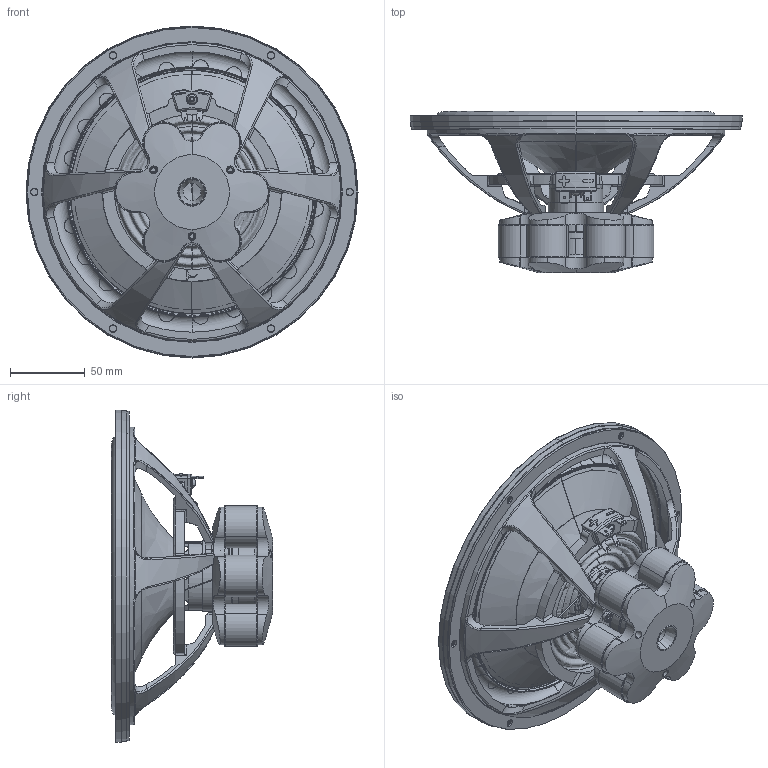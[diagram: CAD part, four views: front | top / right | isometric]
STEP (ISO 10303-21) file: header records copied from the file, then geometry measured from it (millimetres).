
FILE_DESCRIPTION (( 'STEP AP214' ), '1' );
FILE_NAME ('21WE-8542T00.STEP', '2020-05-14T11:59:11', ( '' ), ( '' ), 'SwSTEP 2.0', 'SolidWorks 2019', '' );
FILE_SCHEMA (( 'AUTOMOTIVE_DESIGN' ));
Length unit declared in the file: millimetre
Products named in the file (1): 21WE-8542T00
Bounding box: 222 x 107.7 x 222 mm (x, y, z)
Volume: 360067 mm3; surface area: 294738.2 mm2
Topology: 47 solids, 47 shells, 1596 faces, 3790 edges, 2289 vertices
Faces by surface type: cylinder 436, bspline 384, plane 266, torus 224, cone 209, sphere 77
Entity records: 186770 total; most frequent: CARTESIAN_POINT 134320, ORIENTED_EDGE 7528, DIRECTION 6769, EDGE_CURVE 3764, AXIS2_PLACEMENT_3D 2914, VERTEX_POINT 2284, EDGE_LOOP 1724, CIRCLE 1701
